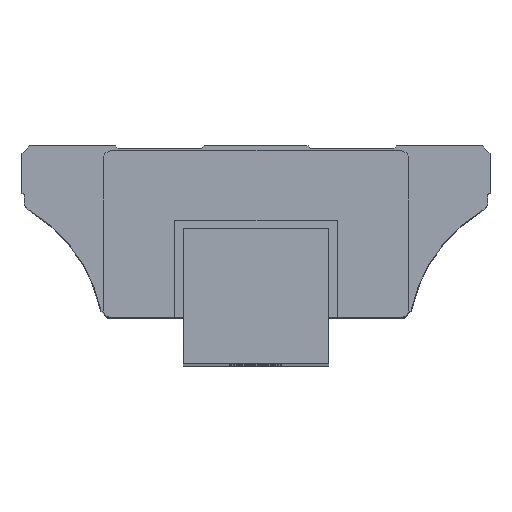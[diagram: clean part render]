
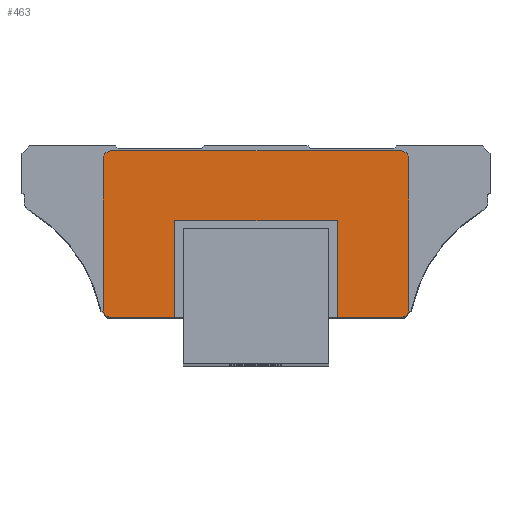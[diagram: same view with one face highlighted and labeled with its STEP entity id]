
A CAD part, top view. The second image highlights one B-rep face of the part: STEP entity #463.
In plain terms, the highlighted planar face has unit normal (0, 0, 1).
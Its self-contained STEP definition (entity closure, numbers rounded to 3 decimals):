
#463 = ADVANCED_FACE( '', ( #779 ), #780, .T. );
#779 = FACE_OUTER_BOUND( '', #1095, .T. );
#780 = PLANE( '', #1096 );
#1095 = EDGE_LOOP( '', ( #2271, #2272, #2273, #2274, #2275, #2276, #2277, #2278, #2279, #2280, #2281, #2282, #2283 ) );
#1096 = AXIS2_PLACEMENT_3D( '', #2284, #2285, #2286 );
#2271 = ORIENTED_EDGE( '', *, *, #2658, .F. );
#2272 = ORIENTED_EDGE( '', *, *, #2681, .F. );
#2273 = ORIENTED_EDGE( '', *, *, #2678, .F. );
#2274 = ORIENTED_EDGE( '', *, *, #2675, .F. );
#2275 = ORIENTED_EDGE( '', *, *, #2672, .F. );
#2276 = ORIENTED_EDGE( '', *, *, #2669, .F. );
#2277 = ORIENTED_EDGE( '', *, *, #2653, .F. );
#2278 = ORIENTED_EDGE( '', *, *, #2640, .F. );
#2279 = ORIENTED_EDGE( '', *, *, #2636, .F. );
#2280 = ORIENTED_EDGE( '', *, *, #2667, .F. );
#2281 = ORIENTED_EDGE( '', *, *, #2664, .F. );
#2282 = ORIENTED_EDGE( '', *, *, #2635, .F. );
#2283 = ORIENTED_EDGE( '', *, *, #2662, .F. );
#2284 = CARTESIAN_POINT( '', ( 14., 26.531, 205.65 ) );
#2285 = DIRECTION( '', ( 0., 0., 1. ) );
#2286 = DIRECTION( '', ( 1., 0., 0. ) );
#2635 = EDGE_CURVE( '', #3231, #3227, #3233, .T. );
#2636 = EDGE_CURVE( '', #3234, #3235, #3236, .T. );
#2640 = EDGE_CURVE( '', #3235, #3242, #3243, .T. );
#2653 = EDGE_CURVE( '', #3242, #3265, #3266, .T. );
#2658 = EDGE_CURVE( '', #3272, #3273, #3274, .T. );
#2662 = EDGE_CURVE( '', #3273, #3231, #3280, .T. );
#2664 = EDGE_CURVE( '', #3227, #3282, #3283, .T. );
#2667 = EDGE_CURVE( '', #3282, #3234, #3287, .T. );
#2669 = EDGE_CURVE( '', #3265, #3289, #3290, .T. );
#2672 = EDGE_CURVE( '', #3289, #3294, #3295, .T. );
#2675 = EDGE_CURVE( '', #3294, #3299, #3300, .T. );
#2678 = EDGE_CURVE( '', #3299, #3304, #3305, .T. );
#2681 = EDGE_CURVE( '', #3304, #3272, #3309, .T. );
#3227 = VERTEX_POINT( '', #4330 );
#3231 = VERTEX_POINT( '', #4335 );
#3233 = CIRCLE( '', #4338, 1.5 );
#3234 = VERTEX_POINT( '', #4339 );
#3235 = VERTEX_POINT( '', #4340 );
#3236 = LINE( '', #4341, #4342 );
#3242 = VERTEX_POINT( '', #4351 );
#3243 = LINE( '', #4352, #4353 );
#3265 = VERTEX_POINT( '', #4387 );
#3266 = LINE( '', #4388, #4389 );
#3272 = VERTEX_POINT( '', #4399 );
#3273 = VERTEX_POINT( '', #4400 );
#3274 = CIRCLE( '', #4401, 1.5 );
#3280 = LINE( '', #4409, #4410 );
#3282 = VERTEX_POINT( '', #4413 );
#3283 = CIRCLE( '', #4414, 1.5 );
#3287 = LINE( '', #4419, #4420 );
#3289 = VERTEX_POINT( '', #4423 );
#3290 = LINE( '', #4424, #4425 );
#3294 = VERTEX_POINT( '', #4431 );
#3295 = CIRCLE( '', #4432, 1.5 );
#3299 = VERTEX_POINT( '', #4437 );
#3300 = LINE( '', #4438, #4439 );
#3304 = VERTEX_POINT( '', #4445 );
#3305 = CIRCLE( '', #4446, 1.5 );
#3309 = LINE( '', #4451, #4452 );
#4330 = CARTESIAN_POINT( '', ( 43.4, 10.5, 205.65 ) );
#4335 = CARTESIAN_POINT( '', ( 43.4, 10.5, 205.65 ) );
#4338 = AXIS2_PLACEMENT_3D( '', #4969, #4970, #4971 );
#4339 = CARTESIAN_POINT( '', ( 29.6, 9., 205.65 ) );
#4340 = CARTESIAN_POINT( '', ( 29.6, 27.6, 205.65 ) );
#4341 = CARTESIAN_POINT( '', ( 29.6, 27.6, 205.65 ) );
#4342 = VECTOR( '', #4972, 1. );
#4351 = CARTESIAN_POINT( '', ( -1.6, 27.6, 205.65 ) );
#4352 = CARTESIAN_POINT( '', ( -1.6, 27.6, 205.65 ) );
#4353 = VECTOR( '', #4976, 1. );
#4387 = CARTESIAN_POINT( '', ( -1.6, 9., 205.65 ) );
#4388 = CARTESIAN_POINT( '', ( -1.6, 27.6, 205.65 ) );
#4389 = VECTOR( '', #4989, 1. );
#4399 = CARTESIAN_POINT( '', ( 41.9, 41., 205.65 ) );
#4400 = CARTESIAN_POINT( '', ( 43.4, 39.5, 205.65 ) );
#4401 = AXIS2_PLACEMENT_3D( '', #4994, #4995, #4996 );
#4409 = CARTESIAN_POINT( '', ( 43.4, 10.5, 205.65 ) );
#4410 = VECTOR( '', #5002, 1. );
#4413 = CARTESIAN_POINT( '', ( 41.9, 9., 205.65 ) );
#4414 = AXIS2_PLACEMENT_3D( '', #5004, #5005, #5006 );
#4419 = CARTESIAN_POINT( '', ( 29.6, 9., 205.65 ) );
#4420 = VECTOR( '', #5011, 1. );
#4423 = CARTESIAN_POINT( '', ( -13.9, 9., 205.65 ) );
#4424 = CARTESIAN_POINT( '', ( -13.9, 9., 205.65 ) );
#4425 = VECTOR( '', #5013, 1. );
#4431 = CARTESIAN_POINT( '', ( -15.4, 10.5, 205.65 ) );
#4432 = AXIS2_PLACEMENT_3D( '', #5016, #5017, #5018 );
#4437 = CARTESIAN_POINT( '', ( -15.4, 39.5, 205.65 ) );
#4438 = CARTESIAN_POINT( '', ( -15.4, 39.5, 205.65 ) );
#4439 = VECTOR( '', #5023, 1. );
#4445 = CARTESIAN_POINT( '', ( -13.9, 41., 205.65 ) );
#4446 = AXIS2_PLACEMENT_3D( '', #5026, #5027, #5028 );
#4451 = CARTESIAN_POINT( '', ( 41.9, 41., 205.65 ) );
#4452 = VECTOR( '', #5033, 1. );
#4969 = CARTESIAN_POINT( '', ( 41.9, 10.5, 205.65 ) );
#4970 = DIRECTION( '', ( 0., 0., -1. ) );
#4971 = DIRECTION( '', ( 1., 0., 0. ) );
#4972 = DIRECTION( '', ( 0., 1., 0. ) );
#4976 = DIRECTION( '', ( -1., 0., 0. ) );
#4989 = DIRECTION( '', ( 0., -1., 0. ) );
#4994 = CARTESIAN_POINT( '', ( 41.9, 39.5, 205.65 ) );
#4995 = DIRECTION( '', ( 0., 0., -1. ) );
#4996 = DIRECTION( '', ( 1., 0., 0. ) );
#5002 = DIRECTION( '', ( 0., -1., 0. ) );
#5004 = CARTESIAN_POINT( '', ( 41.9, 10.5, 205.65 ) );
#5005 = DIRECTION( '', ( 0., 0., -1. ) );
#5006 = DIRECTION( '', ( 1., 0., 0. ) );
#5011 = DIRECTION( '', ( -1., 0., 0. ) );
#5013 = DIRECTION( '', ( -1., 0., 0. ) );
#5016 = CARTESIAN_POINT( '', ( -13.9, 10.5, 205.65 ) );
#5017 = DIRECTION( '', ( 0., 0., -1. ) );
#5018 = DIRECTION( '', ( 1., 0., 0. ) );
#5023 = DIRECTION( '', ( 0., 1., 0. ) );
#5026 = CARTESIAN_POINT( '', ( -13.9, 39.5, 205.65 ) );
#5027 = DIRECTION( '', ( 0., 0., -1. ) );
#5028 = DIRECTION( '', ( 1., 0., 0. ) );
#5033 = DIRECTION( '', ( 1., 0., 0. ) );
